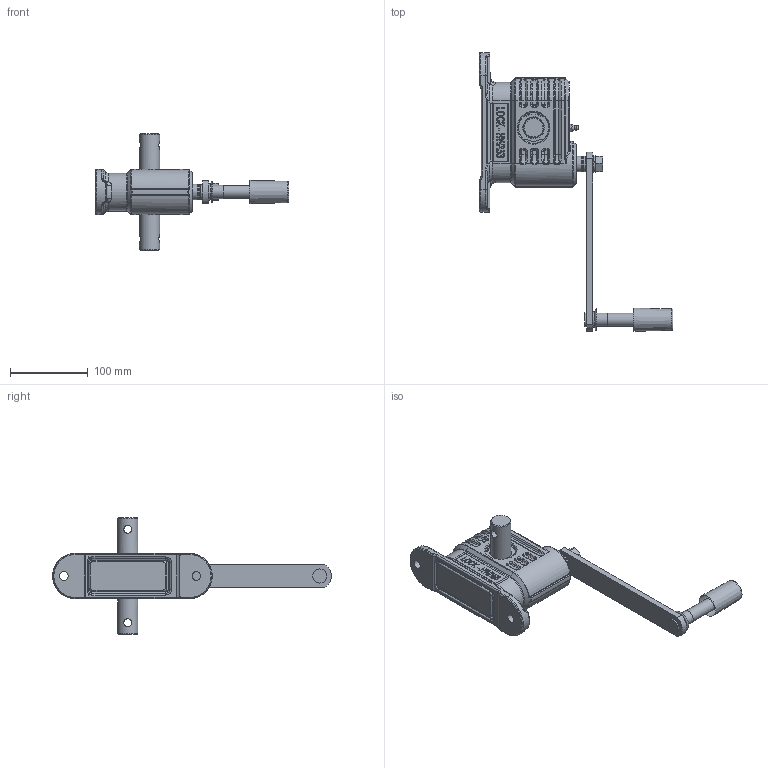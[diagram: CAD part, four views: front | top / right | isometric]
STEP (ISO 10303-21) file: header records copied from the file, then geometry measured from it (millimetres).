
FILE_DESCRIPTION(/* description */ (''),/* implementation_level */ '2;1');
FILE_NAME(/* name */ 'C:\Users\nesvadba\Downloads\52105_1201_06.stp',/* time_stamp */ '2024-02-22T17:44:07+01:00',/* author */ ('nesvadba'),/* organization */ (''),/* preprocessor_version */ 'ST-DEVELOPER v18.1',/* originating_system */ 'Autodesk Inventor 2022',/* authorisation */ '');
FILE_SCHEMA (('CONFIG_CONTROL_DESIGN'));
Products named in the file (1): 52105_1201_06
Bounding box: 249 x 358 x 150 mm (x, y, z)
Volume: 534351.7 mm3; surface area: 184570.5 mm2
Topology: 20 solids, 21 shells, 2401 faces, 6169 edges, 3934 vertices
Faces by surface type: plane 1046, bspline 749, cylinder 358, torus 151, cone 82, sphere 15
Full cylindrical faces by diameter (mm): 1.5 x1, 2.5 x4, 4 x1, 7 x1, 8 x1, 9 x1, 9.9 x1, 10.2 x3, 11 x2, 12 x2, 13.9 x1, 14 x1, 16.4 x1, 16.8 x1, 17.1 x1, 18 x1, 19.9 x1, 20 x4, 21.6 x1, 22.518 x1, 26 x4, 27 x1, 28 x1, 29.5 x1, 40 x8, 41.5 x1, 42 x2, 42.5 x2, 43.6 x1
Entity records: 113409 total; most frequent: CARTESIAN_POINT 58531, ORIENTED_EDGE 12256, DIRECTION 9053, EDGE_CURVE 6128, VERTEX_POINT 3934, LINE 3413, VECTOR 3413, AXIS2_PLACEMENT_3D 2820
